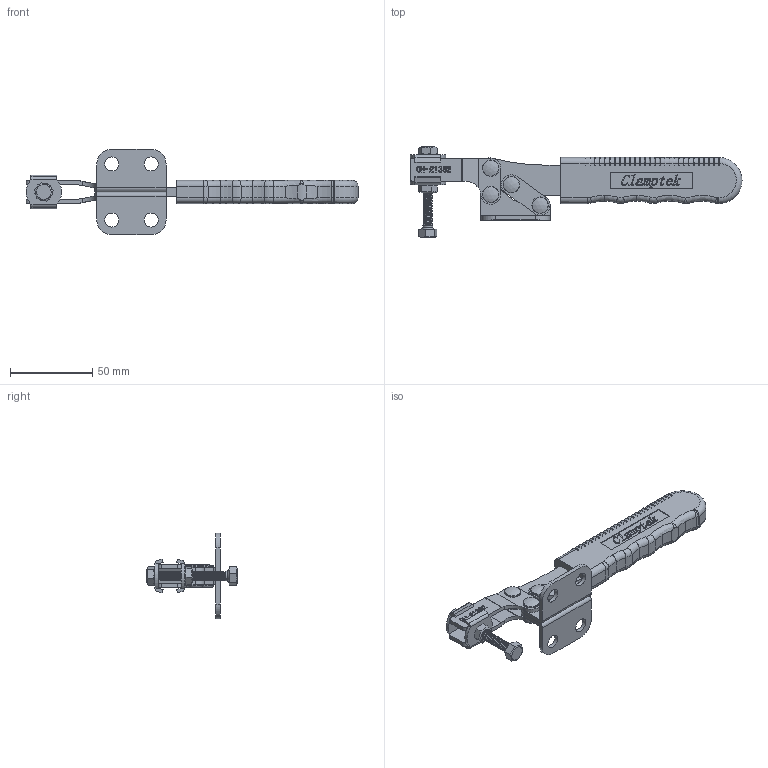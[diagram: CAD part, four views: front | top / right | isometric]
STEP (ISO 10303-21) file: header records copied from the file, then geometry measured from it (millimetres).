
FILE_DESCRIPTION(/* description */ ('STEP AP203'),/* implementation_level */ '2;1');
FILE_NAME(/* name */ 'E:\STRONA\Horizontal toggle clamp\CH-21382\CH-21382_ZAMKNIETY.stp',/* time_stamp */ '2019-01-15T16:25:36+01:00',/* author */ ('Admin'),/* organization */ ('Î¢ÈíÖÐ¹ú'),/* preprocessor_version */ 'ST-DEVELOPER v17.2',/* originating_system */ 'Autodesk Inventor 2019',/* authorisation */ '');
FILE_SCHEMA (('AUTOMOTIVE_DESIGN { 1 0 10303 214 3 1 1 }'));
Products named in the file (10): CH-21382_ZAMKNIETY; 065010; M6; FW516; 21382-01; 21382-02; 21382-03; 21382-04; 21382-06; 21382-05
Assembly tree (15 placements, depth 2):
  CH-21382_ZAMKNIETY
    065010
    21382-04  x2
    21382-06  x4
    FW516  x2
    M6  x2
    21382-01
    21382-02
    21382-03
    21382-05
Bounding box: 201.5 x 55.01 x 52 mm (x, y, z)
Volume: 61550.7 mm3; surface area: 36794.4 mm2
Topology: 17 solids, 17 shells, 1334 faces, 3534 edges, 2289 vertices
Faces by surface type: plane 581, bspline 360, cylinder 256, torus 93, cone 34, sphere 10
Full cylindrical faces by diameter (mm): 3 x1, 4 x1, 4.8 x10, 5 x4, 6 x1, 6.3 x4, 6.4 x14, 8.1 x2, 8.5 x4, 10 x8
Entity records: 63246 total; most frequent: CARTESIAN_POINT 33577, ORIENTED_EDGE 6548, DIRECTION 4869, EDGE_CURVE 3274, VERTEX_POINT 2112, LINE 1919, VECTOR 1919, AXIS2_PLACEMENT_3D 1475
